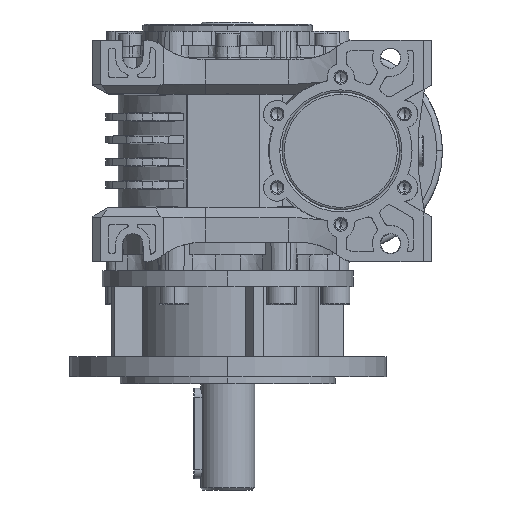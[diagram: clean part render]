
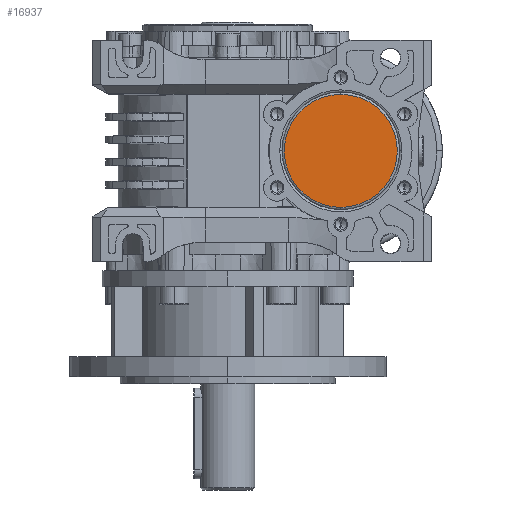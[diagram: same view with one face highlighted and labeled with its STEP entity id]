
A CAD part, left-side view. The second image highlights one B-rep face of the part: STEP entity #16937.
In plain terms, the highlighted planar face has unit normal (-1, 0, 0).
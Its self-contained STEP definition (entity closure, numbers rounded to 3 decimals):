
#4459 = CARTESIAN_POINT ( 'NONE',  ( -60., -50., 0. ) ) ;
#10426 = DIRECTION ( 'NONE',  ( 0., 0., 1. ) ) ;
#15073 = AXIS2_PLACEMENT_3D ( 'NONE', #102516, #83510, #93313 ) ;
#16937 = ADVANCED_FACE ( 'NONE', ( #50137 ), #74905, .F. ) ;
#25045 = ORIENTED_EDGE ( 'NONE', *, *, #68856, .T. ) ;
#36445 = EDGE_CURVE ( 'NONE', #61515, #80477, #87548, .T. ) ;
#37708 = CIRCLE ( 'NONE', #109412, 25. ) ;
#50137 = FACE_OUTER_BOUND ( 'NONE', #68383, .T. ) ;
#56673 = ORIENTED_EDGE ( 'NONE', *, *, #36445, .T. ) ;
#61515 = VERTEX_POINT ( 'NONE', #77986 ) ;
#65046 = CARTESIAN_POINT ( 'NONE',  ( -60., -50., 0. ) ) ;
#66014 = DIRECTION ( 'NONE',  ( -1., 0., 0. ) ) ;
#67730 = DIRECTION ( 'NONE',  ( 0., 0., 1. ) ) ;
#68383 = EDGE_LOOP ( 'NONE', ( #25045, #56673 ) ) ;
#68856 = EDGE_CURVE ( 'NONE', #80477, #61515, #37708, .T. ) ;
#69142 = AXIS2_PLACEMENT_3D ( 'NONE', #4459, #66014, #67730 ) ;
#74905 = PLANE ( 'NONE',  #15073 ) ;
#77986 = CARTESIAN_POINT ( 'NONE',  ( -60., -50., -25. ) ) ;
#80477 = VERTEX_POINT ( 'NONE', #97222 ) ;
#83510 = DIRECTION ( 'NONE',  ( 1., 0., 0. ) ) ;
#87548 = CIRCLE ( 'NONE', #69142, 25. ) ;
#93313 = DIRECTION ( 'NONE',  ( 0., 0., -1. ) ) ;
#97222 = CARTESIAN_POINT ( 'NONE',  ( -60., -50., 25. ) ) ;
#102516 = CARTESIAN_POINT ( 'NONE',  ( -60., -50., 0. ) ) ;
#107091 = DIRECTION ( 'NONE',  ( -1., 0., 0. ) ) ;
#109412 = AXIS2_PLACEMENT_3D ( 'NONE', #65046, #107091, #10426 ) ;
